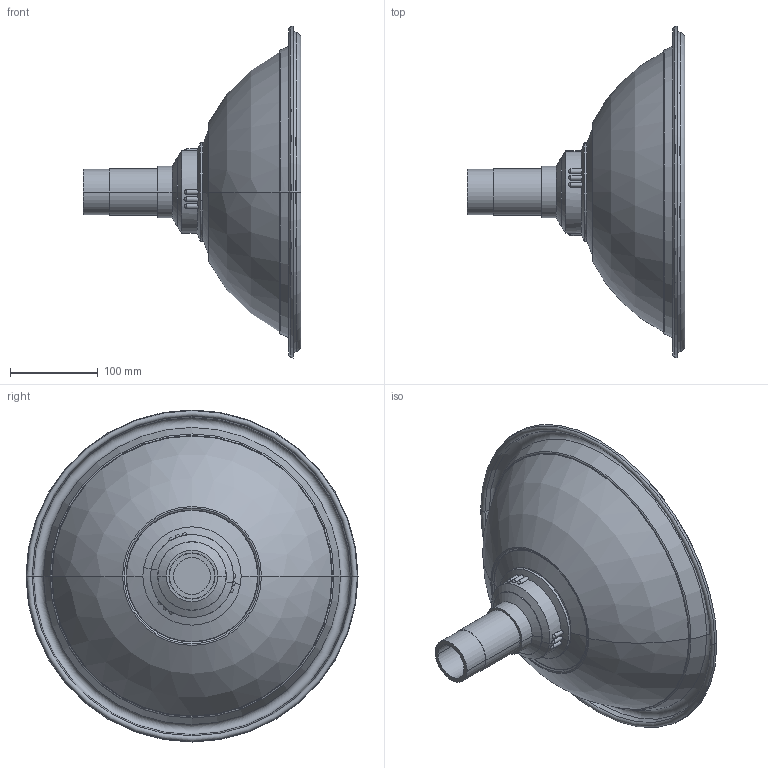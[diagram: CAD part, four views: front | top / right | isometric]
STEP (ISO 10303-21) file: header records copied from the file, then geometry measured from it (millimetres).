
FILE_DESCRIPTION((''),'2;1');
FILE_NAME('MEK350-50','2015-12-02T',('Tomas Bellgran'),(''),'PRO/ENGINEER BY PARAMETRIC TECHNOLOGY CORPORATION, 2013410','PRO/ENGINEER BY PARAMETRIC TECHNOLOGY CORPORATION, 2013410','');
FILE_SCHEMA(('AUTOMOTIVE_DESIGN { 1 0 10303 214 1 1 1 1 }'));
Length unit declared in the file: millimetre
Products named in the file (6): 116334_AF0; 117001_AF0; 117014; 116472; 117011; MEK350-50
Assembly tree (5 placements, depth 3):
  MEK350-50
    117014
      116334_AF0
      117001_AF0
    116472
    117011
Bounding box: 248.39 x 378.56 x 378.56 mm (x, y, z)
Volume: 490854.3 mm3; surface area: 412700.9 mm2
Topology: 4 solids, 4 shells, 166 faces, 357 edges, 201 vertices
Faces by surface type: cone 40, cylinder 35, plane 28, torus 24, sphere 21, bspline 18
Entity records: 7988 total; most frequent: CARTESIAN_POINT 2572, DIRECTION 806, ORIENTED_EDGE 714, EDGE_CURVE 357, AXIS2_PLACEMENT_3D 352, PROPERTY_DEFINITION 237, REPRESENTATION 233, PROPERTY_DEFINITION_REPRESENTATION 233
